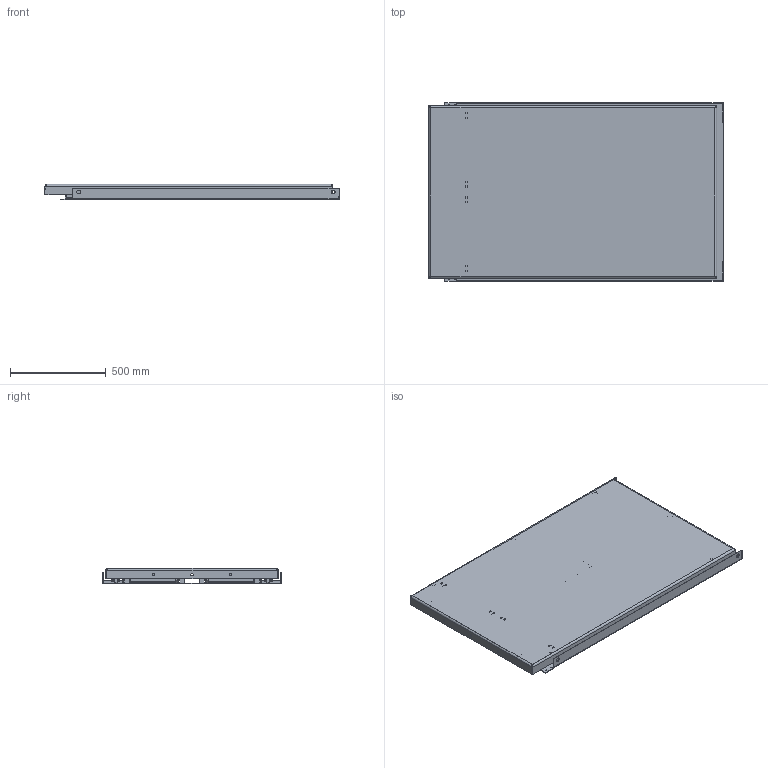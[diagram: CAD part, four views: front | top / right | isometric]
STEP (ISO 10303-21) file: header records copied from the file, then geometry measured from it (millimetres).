
FILE_DESCRIPTION(/* description */ ('TCB 600 (1500x900)'),/* implementation_level */ '2;1');
FILE_NAME(/* name */ 'C:\Autodesk_VaultWork\Ritningar\33245_Collapsed.stp',/* time_stamp */ '2019-04-09T11:04:28+02:00',/* author */ ('johso'),/* organization */ (''),/* preprocessor_version */ 'ST-DEVELOPER v16.5',/* originating_system */ 'Autodesk Inventor 2017',/* authorisation */ '');
FILE_SCHEMA (('AUTOMOTIVE_DESIGN { 1 0 10303 214 3 1 1 }'));
Length unit declared in the file: millimetre
Products named in the file (22): 33245.tmp; 33247; 35887; 42974; 43469C; 33246C; 514470; 33248-4; 45087; 84207; 44572; 612451; 517432; 33252C; 82170-1245; 517434; 80030 - 236; 517435; 517435-1; 33253C; 33253C-1; 42949C
Assembly tree (43 placements, depth 5):
  33245.tmp
    33247
      35887
      42974  x4
      43469C  x2
    33246C
      514470
      33248-4  x8
      84207  x4
      44572  x3
      45087  x2
    612451
      517432
        33252C  x2
          82170-1245
        517434  x2
        80030 - 236  x2
      517435
        517435-1
      33253C  x2
        33253C-1
        42949C
Bounding box: 1532.89 x 930 x 80 mm (x, y, z)
Volume: 19259760.8 mm3; surface area: 8289692.9 mm2
Topology: 38 solids, 38 shells, 1011 faces, 2658 edges, 1728 vertices
Faces by surface type: plane 540, cylinder 411, bspline 32, cone 28
Full cylindrical faces by diameter (mm): 4.7 x4, 6 x4, 8.88 x4, 9.4 x4, 10 x12, 10.1 x2, 10.5 x12, 12.5 x6, 14 x4, 20 x8, 20.1 x2, 26 x2, 34.1 x2, 35 x2, 45 x4, 50.1 x2
Entity records: 20414 total; most frequent: CARTESIAN_POINT 4764, DIRECTION 3150, ORIENTED_EDGE 3074, EDGE_CURVE 1537, AXIS2_PLACEMENT_3D 1083, VERTEX_POINT 1029, LINE 984, VECTOR 984
